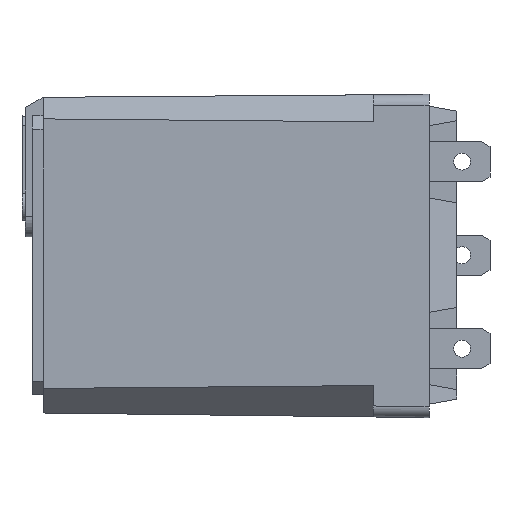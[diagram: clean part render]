
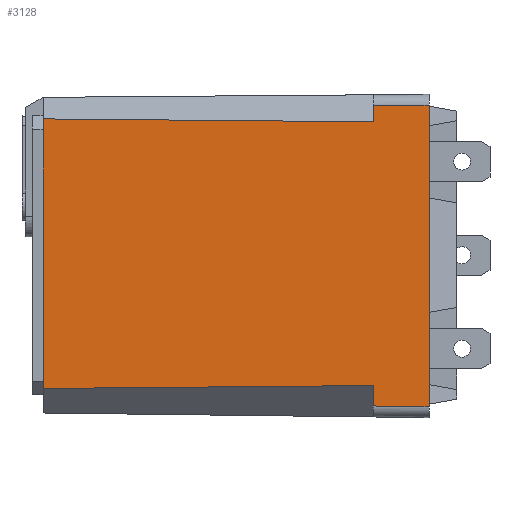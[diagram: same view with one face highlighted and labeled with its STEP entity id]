
A CAD part, left-side view. The second image highlights one B-rep face of the part: STEP entity #3128.
In plain terms, the highlighted planar face has unit normal (-1, 0.009, 0).
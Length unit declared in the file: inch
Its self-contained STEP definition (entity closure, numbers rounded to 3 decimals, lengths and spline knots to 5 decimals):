
#47=DIRECTION('',(0.,0.,-1.));
#48=VECTOR('',#47,1.25394);
#49=CARTESIAN_POINT('',(-0.68898,0.,0.63386));
#50=LINE('',#49,#48);
#338=DIRECTION('',(0.,0.,-1.));
#339=VECTOR('',#338,0.07447);
#340=CARTESIAN_POINT('',(-0.70245,-1.53543,
0.69486));
#341=LINE('',#340,#339);
#342=DIRECTION('',(0.,0.,-1.));
#343=VECTOR('',#342,0.09498);
#344=CARTESIAN_POINT('',(-0.70245,-1.53543,
-0.60661));
#345=LINE('',#344,#343);
#346=DIRECTION('',(-0.009,-1.,0.009));
#347=VECTOR('',#346,1.53555);
#348=CARTESIAN_POINT('',(-0.68898,0.,-0.62008));
#349=LINE('',#348,#347);
#350=DIRECTION('',(-0.009,-1.,-0.009));
#351=VECTOR('',#350,1.53555);
#352=CARTESIAN_POINT('',(-0.68898,0.,0.63386));
#353=LINE('',#352,#351);
#366=CARTESIAN_POINT('',(-0.70472,-1.79528,
0.69685));
#368=DIRECTION('',(0.009,1.,-0.008));
#369=VECTOR('',#368,0.25986);
#370=CARTESIAN_POINT('',(-0.70472,-1.79528,
0.69685));
#371=LINE('',#370,#369);
#380=DIRECTION('',(0.,0.,-1.));
#381=VECTOR('',#380,1.40158);
#382=CARTESIAN_POINT('',(-0.70472,-1.79528,
0.69685));
#383=LINE('',#382,#381);
#696=DIRECTION('',(0.009,1.,0.012));
#697=VECTOR('',#696,0.25987);
#698=CARTESIAN_POINT('',(-0.70472,-1.79528,
-0.70473));
#699=LINE('',#698,#697);
#700=CARTESIAN_POINT('',(-0.70472,-1.79528,
-0.70473));
#2035=VERTEX_POINT('',#366);
#2036=VERTEX_POINT('',#700);
#2052=CARTESIAN_POINT('',(-0.68898,0.,-0.62008));
#2054=VERTEX_POINT('',#2052);
#2056=CARTESIAN_POINT('',(-0.68898,0.,0.63386));
#2058=VERTEX_POINT('',#2056);
#2076=CARTESIAN_POINT('',(-0.70245,-1.53543,
0.69486));
#2077=CARTESIAN_POINT('',(-0.70245,-1.53543,
0.62039));
#2078=VERTEX_POINT('',#2076);
#2079=VERTEX_POINT('',#2077);
#2080=CARTESIAN_POINT('',(-0.70245,-1.53543,
-0.60661));
#2081=CARTESIAN_POINT('',(-0.70245,-1.53543,
-0.70159));
#2082=VERTEX_POINT('',#2080);
#2083=VERTEX_POINT('',#2081);
#3109=CARTESIAN_POINT('',(-0.69685,-0.89764,
-0.00197));
#3110=DIRECTION('',(-1.,0.009,0.));
#3111=DIRECTION('',(0.,0.,-1.));
#3112=AXIS2_PLACEMENT_3D('',#3109,#3110,#3111);
#3113=PLANE('',#3112);
#3114=ORIENTED_EDGE('',*,*,#3008,.F.);
#3116=ORIENTED_EDGE('',*,*,#3115,.F.);
#3118=ORIENTED_EDGE('',*,*,#3117,.T.);
#3120=ORIENTED_EDGE('',*,*,#3119,.T.);
#3121=ORIENTED_EDGE('',*,*,#2965,.F.);
#3122=ORIENTED_EDGE('',*,*,#3102,.F.);
#3123=ORIENTED_EDGE('',*,*,#2699,.F.);
#3125=ORIENTED_EDGE('',*,*,#3124,.T.);
#3126=EDGE_LOOP('',(#3114,#3116,#3118,#3120,#3121,#3122,#3123,#3125));
#3127=FACE_OUTER_BOUND('',#3126,.F.);
#3128=ADVANCED_FACE('',(#3127),#3113,.T.);
#2699=EDGE_CURVE('',#2058,#2054,#50,.T.);
#2965=EDGE_CURVE('',#2082,#2083,#345,.T.);
#3008=EDGE_CURVE('',#2078,#2079,#341,.T.);
#3102=EDGE_CURVE('',#2054,#2082,#349,.T.);
#3115=EDGE_CURVE('',#2035,#2078,#371,.T.);
#3117=EDGE_CURVE('',#2035,#2036,#383,.T.);
#3119=EDGE_CURVE('',#2036,#2083,#699,.T.);
#3124=EDGE_CURVE('',#2058,#2079,#353,.T.);
